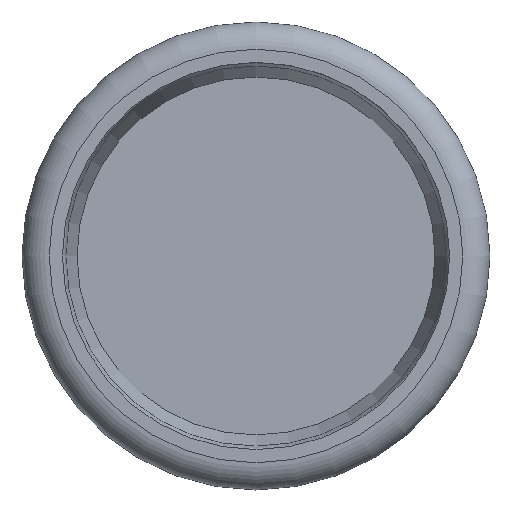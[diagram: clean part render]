
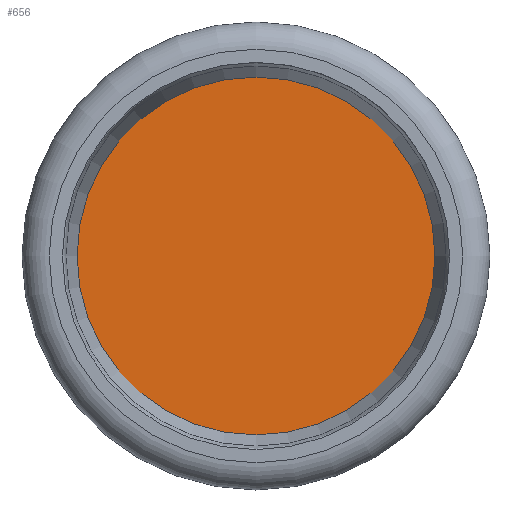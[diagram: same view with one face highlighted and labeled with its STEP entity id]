
A CAD part, left-side view. The second image highlights one B-rep face of the part: STEP entity #656.
In plain terms, the highlighted planar face has unit normal (-1, 0, 0) as drawn and (0, 0, -1) by its records, which use the part's own axes.
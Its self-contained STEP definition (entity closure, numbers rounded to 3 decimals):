
#627=CARTESIAN_POINT('',(38.05,0.,0.0));
#628=VERTEX_POINT('',#627);
#629=CARTESIAN_POINT('',(0.0,0.0,0.0));
#630=DIRECTION('',(0.0,0.0,-1.0));
#631=DIRECTION('',(-1.0,0.0,0.0));
#632=AXIS2_PLACEMENT_3D('',#629,#630,#631);
#633=CIRCLE('',#632,38.05);
#634=EDGE_CURVE('',#628,#628,#633,.T.);
#648=CARTESIAN_POINT('',(0.0,0.0,0.0));
#649=DIRECTION('',(0.0,0.0,-1.0));
#650=DIRECTION('',(-1.0,0.0,0.0));
#651=AXIS2_PLACEMENT_3D('',#648,#649,#650);
#652=PLANE('',#651);
#653=ORIENTED_EDGE('',*,*,#634,.T.);
#654=EDGE_LOOP('',(#653));
#655=FACE_OUTER_BOUND('',#654,.T.);
#656=ADVANCED_FACE('',(#655),#652,.T.);
